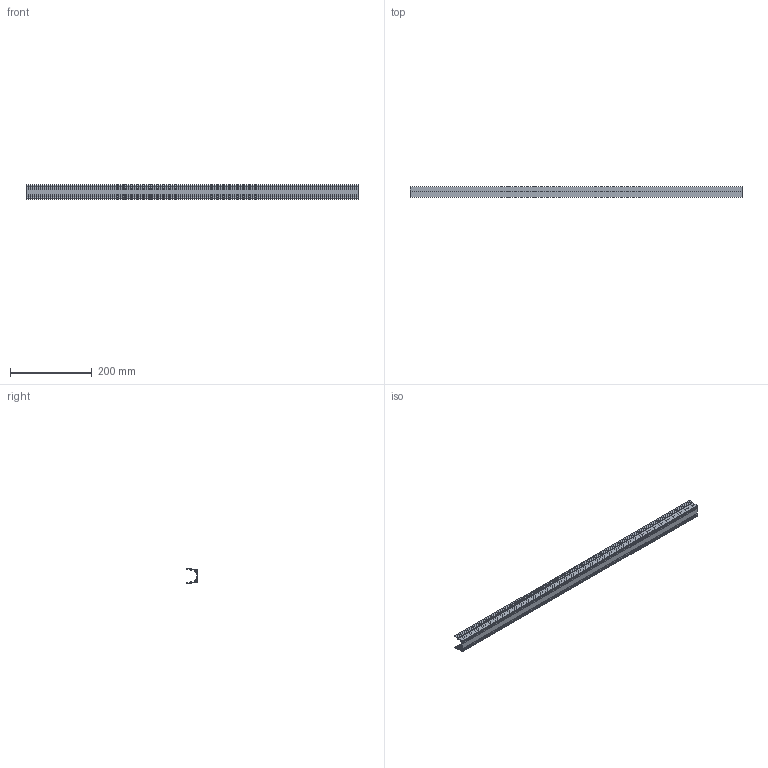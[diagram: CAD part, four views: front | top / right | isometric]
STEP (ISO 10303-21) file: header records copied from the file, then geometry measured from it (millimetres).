
FILE_DESCRIPTION( ( 'STEP AP203' ), '1' );
FILE_NAME( 'C:/Temp/Ganter_Step_05_03_2020/data/3_8/gn_646_3/Carrier profile GN 646.3-810-A (15).stp', '2020-03-12T15:24:21', ( 'License CC BY-ND 4.0' ), ( 'CADENAS' ), ' ', 'PARTsolutions', ' ' );
FILE_SCHEMA( ( 'CONFIG_CONTROL_DESIGN' ) );
Length unit declared in the file: millimetre
Products named in the file (1): _Carrier profile GN 646.3-810-A (15)
Bounding box: 810 x 26.5 x 36 mm (x, y, z)
Volume: 136029.7 mm3; surface area: 170353.1 mm2
Topology: 1 solids, 1 shells, 112 faces, 330 edges, 220 vertices
Faces by surface type: plane 70, cylinder 42
Entity records: 3782 total; most frequent: CARTESIAN_POINT 663, ORIENTED_EDGE 660, DIRECTION 640, EDGE_CURVE 330, LINE 246, VECTOR 246, VERTEX_POINT 220, AXIS2_PLACEMENT_3D 197
